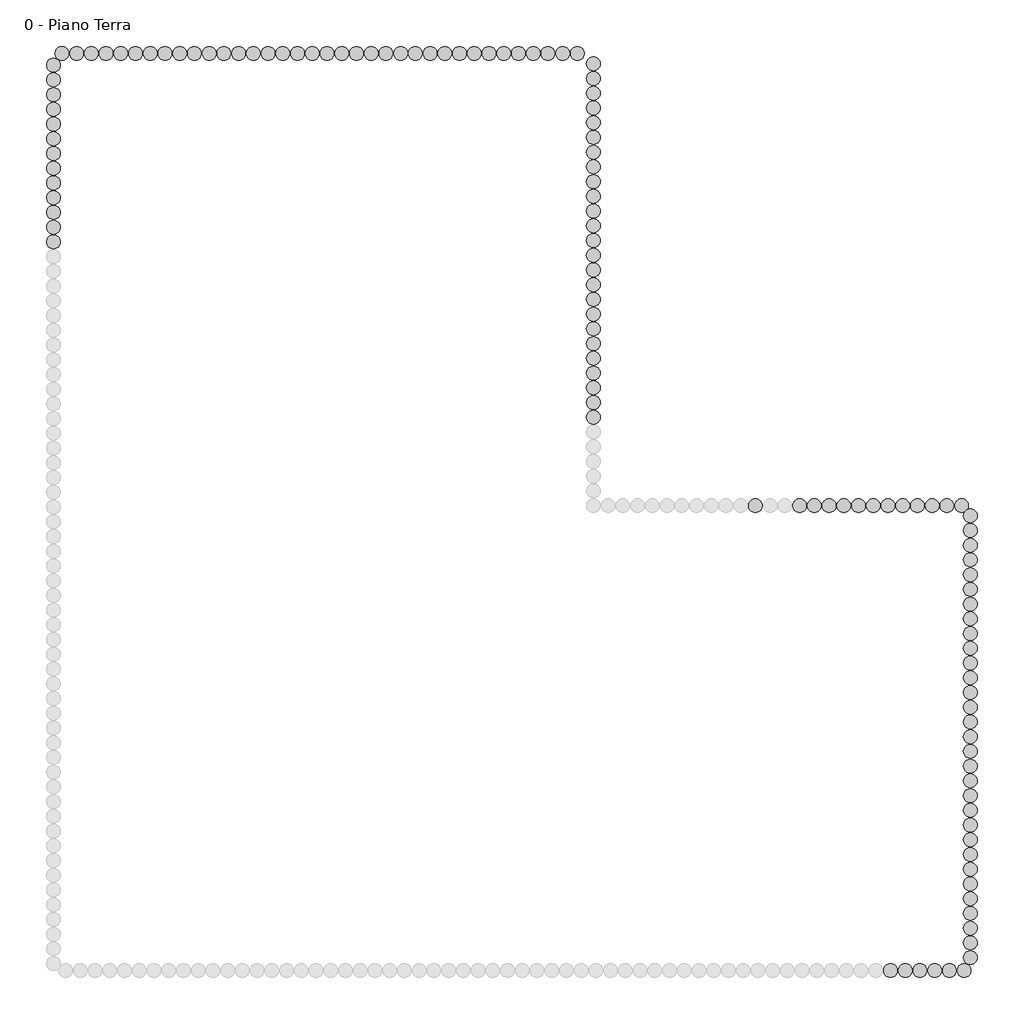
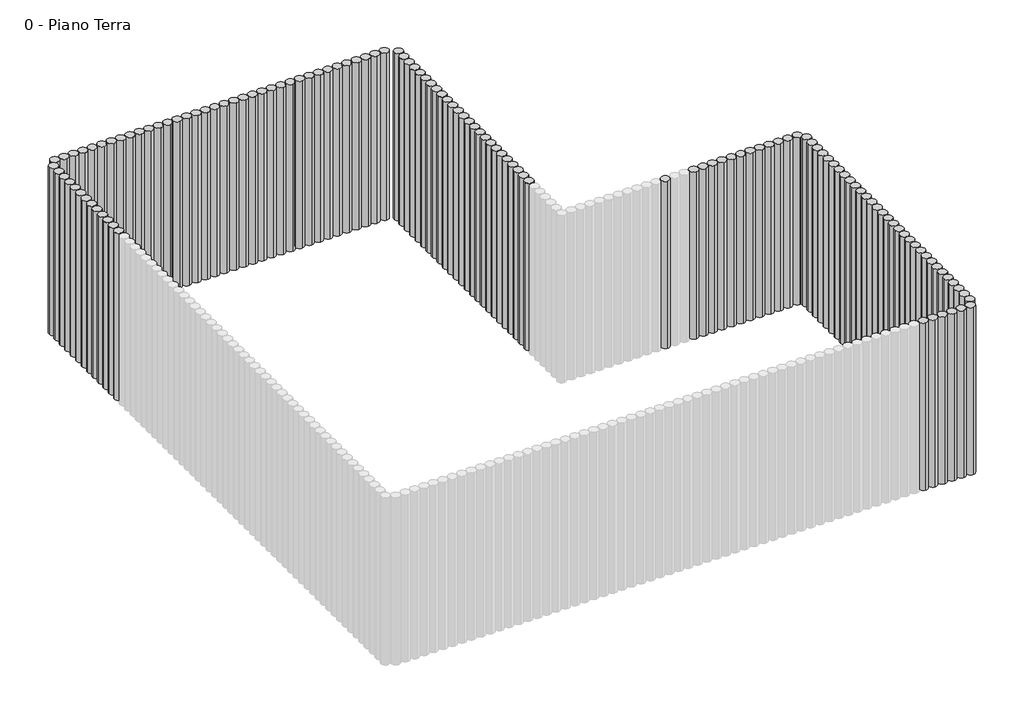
# One storey, part 2 of 2: 124 columns.
"""IFC4 building model written with IfcOpenShell, lengths in millimetres."""

from ifc_helpers import new_model, si_unit, origin, place, context, project, spatial, transform, mapped, element, save
from components import eng_piling_eng_piling_70ba4476

model = new_model("IFC4")

# Units and contexts
model_context = context("Model", 3, world=origin())
ifc_project = project(units=[si_unit("LENGTHUNIT", "METRE", prefix="MILLI")], contexts=[model_context])

# Site, building, storey
site = spatial("IfcSite", under=ifc_project)
building = spatial("IfcBuilding", under=site)
storey = spatial("IfcBuildingStorey", under=building, Name="0 - Piano Terra", Elevation=0.0)

# Columns
placement = place(None, origin())
eng_piling_eng_piling_shape = eng_piling_eng_piling_70ba4476(model_context)
element("IfcColumn", 1, ObjectType="ENG - Piling : ENG - Piling", at=placement, inside=storey, context=model_context, shape_type="MappedRepresentation", body=[
    mapped(eng_piling_eng_piling_shape, transform((-18007.5089367, 34.2238528, 0.0), x_axis=(1.0, 0.0, 0.0), y_axis=(0.0, 1.0, 0.0), z_axis=(0.0, 0.0, 1.0))),
])
element("IfcColumn", 2, ObjectType="ENG - Piling : ENG - Piling", at=placement, inside=storey, context=model_context, shape_type="MappedRepresentation", body=[
    mapped(eng_piling_eng_piling_shape, transform((-18007.5089367, 354.2238528, 0.0), x_axis=(1.0, 0.0, 0.0), y_axis=(0.0, 1.0, 0.0), z_axis=(0.0, 0.0, 1.0))),
])
element("IfcColumn", 3, ObjectType="ENG - Piling : ENG - Piling", at=placement, inside=storey, context=model_context, shape_type="MappedRepresentation", body=[
    mapped(eng_piling_eng_piling_shape, transform((-18007.5089367, 674.2238528, 0.0), x_axis=(1.0, 0.0, 0.0), y_axis=(0.0, 1.0, 0.0), z_axis=(0.0, 0.0, 1.0))),
])
element("IfcColumn", 4, ObjectType="ENG - Piling : ENG - Piling", at=placement, inside=storey, context=model_context, shape_type="MappedRepresentation", body=[
    mapped(eng_piling_eng_piling_shape, transform((-18007.5089367, 994.2238528, 0.0), x_axis=(1.0, 0.0, 0.0), y_axis=(0.0, 1.0, 0.0), z_axis=(0.0, 0.0, 1.0))),
])
element("IfcColumn", 5, ObjectType="ENG - Piling : ENG - Piling", at=placement, inside=storey, context=model_context, shape_type="MappedRepresentation", body=[
    mapped(eng_piling_eng_piling_shape, transform((-18007.5089367, 1314.2238528, 0.0), x_axis=(1.0, 0.0, 0.0), y_axis=(0.0, 1.0, 0.0), z_axis=(0.0, 0.0, 1.0))),
])
element("IfcColumn", 6, ObjectType="ENG - Piling : ENG - Piling", at=placement, inside=storey, context=model_context, shape_type="MappedRepresentation", body=[
    mapped(eng_piling_eng_piling_shape, transform((-18007.5089367, 1634.2238528, 0.0), x_axis=(1.0, 0.0, 0.0), y_axis=(0.0, 1.0, 0.0), z_axis=(0.0, 0.0, 1.0))),
])
element("IfcColumn", 7, ObjectType="ENG - Piling : ENG - Piling", at=placement, inside=storey, context=model_context, shape_type="MappedRepresentation", body=[
    mapped(eng_piling_eng_piling_shape, transform((-18007.5089367, 1954.2238528, 0.0), x_axis=(1.0, 0.0, 0.0), y_axis=(0.0, 1.0, 0.0), z_axis=(0.0, 0.0, 1.0))),
])
element("IfcColumn", 8, ObjectType="ENG - Piling : ENG - Piling", at=placement, inside=storey, context=model_context, shape_type="MappedRepresentation", body=[
    mapped(eng_piling_eng_piling_shape, transform((-18007.5089367, 2274.2238528, 0.0), x_axis=(1.0, 0.0, 0.0), y_axis=(0.0, 1.0, 0.0), z_axis=(0.0, 0.0, 1.0))),
])
element("IfcColumn", 9, ObjectType="ENG - Piling : ENG - Piling", at=placement, inside=storey, context=model_context, shape_type="MappedRepresentation", body=[
    mapped(eng_piling_eng_piling_shape, transform((-18007.5089367, 2594.2238528, 0.0), x_axis=(1.0, 0.0, 0.0), y_axis=(0.0, 1.0, 0.0), z_axis=(0.0, 0.0, 1.0))),
])
element("IfcColumn", 10, ObjectType="ENG - Piling : ENG - Piling", at=placement, inside=storey, context=model_context, shape_type="MappedRepresentation", body=[
    mapped(eng_piling_eng_piling_shape, transform((-18007.5089367, 2914.2238528, 0.0), x_axis=(1.0, 0.0, 0.0), y_axis=(0.0, 1.0, 0.0), z_axis=(0.0, 0.0, 1.0))),
])
element("IfcColumn", 11, ObjectType="ENG - Piling : ENG - Piling", at=placement, inside=storey, context=model_context, shape_type="MappedRepresentation", body=[
    mapped(eng_piling_eng_piling_shape, transform((-18007.5089367, 3234.2238528, 0.0), x_axis=(1.0, 0.0, 0.0), y_axis=(0.0, 1.0, 0.0), z_axis=(0.0, 0.0, 1.0))),
])
element("IfcColumn", 12, ObjectType="ENG - Piling : ENG - Piling", at=placement, inside=storey, context=model_context, shape_type="MappedRepresentation", body=[
    mapped(eng_piling_eng_piling_shape, transform((-18007.5089367, 3554.2238528, 0.0), x_axis=(1.0, 0.0, 0.0), y_axis=(0.0, 1.0, 0.0), z_axis=(0.0, 0.0, 1.0))),
])
element("IfcColumn", 13, ObjectType="ENG - Piling : ENG - Piling", at=placement, inside=storey, context=model_context, shape_type="MappedRepresentation", body=[
    mapped(eng_piling_eng_piling_shape, transform((-18007.5089367, 3874.2238528, 0.0), x_axis=(1.0, 0.0, 0.0), y_axis=(0.0, 1.0, 0.0), z_axis=(0.0, 0.0, 1.0))),
])
element("IfcColumn", 14, ObjectType="ENG - Piling : ENG - Piling", at=placement, inside=storey, context=model_context, shape_type="MappedRepresentation", body=[
    mapped(eng_piling_eng_piling_shape, transform((1777.4910633, -15795.7761472, 0.0), x_axis=(0.0, 1.0000000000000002, 0.0), y_axis=(-1.0000000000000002, 0.0, 0.0), z_axis=(0.0, 0.0, 1.0))),
])
element("IfcColumn", 15, ObjectType="ENG - Piling : ENG - Piling", at=placement, inside=storey, context=model_context, shape_type="MappedRepresentation", body=[
    mapped(eng_piling_eng_piling_shape, transform((1457.4910633, -15795.7761472, 0.0), x_axis=(0.0, 1.0000000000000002, 0.0), y_axis=(-1.0000000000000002, 0.0, 0.0), z_axis=(0.0, 0.0, 1.0))),
])
element("IfcColumn", 16, ObjectType="ENG - Piling : ENG - Piling", at=placement, inside=storey, context=model_context, shape_type="MappedRepresentation", body=[
    mapped(eng_piling_eng_piling_shape, transform((1137.4910633, -15795.7761472, 0.0), x_axis=(0.0, 1.0000000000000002, 0.0), y_axis=(-1.0000000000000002, 0.0, 0.0), z_axis=(0.0, 0.0, 1.0))),
])
element("IfcColumn", 17, ObjectType="ENG - Piling : ENG - Piling", at=placement, inside=storey, context=model_context, shape_type="MappedRepresentation", body=[
    mapped(eng_piling_eng_piling_shape, transform((817.4910633, -15795.7761472, 0.0), x_axis=(0.0, 1.0000000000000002, 0.0), y_axis=(-1.0000000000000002, 0.0, 0.0), z_axis=(0.0, 0.0, 1.0))),
])
element("IfcColumn", 18, ObjectType="ENG - Piling : ENG - Piling", at=placement, inside=storey, context=model_context, shape_type="MappedRepresentation", body=[
    mapped(eng_piling_eng_piling_shape, transform((497.4910633, -15795.7761472, 0.0), x_axis=(0.0, 1.0000000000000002, 0.0), y_axis=(-1.0000000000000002, 0.0, 0.0), z_axis=(0.0, 0.0, 1.0))),
])
element("IfcColumn", 19, ObjectType="ENG - Piling : ENG - Piling", at=placement, inside=storey, context=model_context, shape_type="MappedRepresentation", body=[
    mapped(eng_piling_eng_piling_shape, transform((177.4910633, -15795.7761472, 0.0), x_axis=(0.0, 1.0000000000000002, 0.0), y_axis=(-1.0000000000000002, 0.0, 0.0), z_axis=(0.0, 0.0, 1.0))),
])
element("IfcColumn", 20, ObjectType="ENG - Piling : ENG - Piling", at=placement, inside=storey, context=model_context, shape_type="MappedRepresentation", body=[
    mapped(eng_piling_eng_piling_shape, transform((-6276.5891533, -3776.0018136, 0.0), x_axis=(1.0, 0.0, 0.0), y_axis=(0.0, 1.0, 0.0), z_axis=(0.0, 0.0, 1.0))),
])
element("IfcColumn", 21, ObjectType="ENG - Piling : ENG - Piling", at=placement, inside=storey, context=model_context, shape_type="MappedRepresentation", body=[
    mapped(eng_piling_eng_piling_shape, transform((-6276.5891533, -3456.0018136, 0.0), x_axis=(1.0, 0.0, 0.0), y_axis=(0.0, 1.0, 0.0), z_axis=(0.0, 0.0, 1.0))),
])
element("IfcColumn", 22, ObjectType="ENG - Piling : ENG - Piling", at=placement, inside=storey, context=model_context, shape_type="MappedRepresentation", body=[
    mapped(eng_piling_eng_piling_shape, transform((-6276.5891533, -3136.0018136, 0.0), x_axis=(1.0, 0.0, 0.0), y_axis=(0.0, 1.0, 0.0), z_axis=(0.0, 0.0, 1.0))),
])
element("IfcColumn", 23, ObjectType="ENG - Piling : ENG - Piling", at=placement, inside=storey, context=model_context, shape_type="MappedRepresentation", body=[
    mapped(eng_piling_eng_piling_shape, transform((-6276.5891533, -2816.0018136, 0.0), x_axis=(1.0, 0.0, 0.0), y_axis=(0.0, 1.0, 0.0), z_axis=(0.0, 0.0, 1.0))),
])
element("IfcColumn", 24, ObjectType="ENG - Piling : ENG - Piling", at=placement, inside=storey, context=model_context, shape_type="MappedRepresentation", body=[
    mapped(eng_piling_eng_piling_shape, transform((-6276.5891533, -2496.0018136, 0.0), x_axis=(1.0, 0.0, 0.0), y_axis=(0.0, 1.0, 0.0), z_axis=(0.0, 0.0, 1.0))),
])
element("IfcColumn", 25, ObjectType="ENG - Piling : ENG - Piling", at=placement, inside=storey, context=model_context, shape_type="MappedRepresentation", body=[
    mapped(eng_piling_eng_piling_shape, transform((-6276.5891533, -2176.0018136, 0.0), x_axis=(1.0, 0.0, 0.0), y_axis=(0.0, 1.0, 0.0), z_axis=(0.0, 0.0, 1.0))),
])
element("IfcColumn", 26, ObjectType="ENG - Piling : ENG - Piling", at=placement, inside=storey, context=model_context, shape_type="MappedRepresentation", body=[
    mapped(eng_piling_eng_piling_shape, transform((-6276.5891533, -1856.0018136, 0.0), x_axis=(1.0, 0.0, 0.0), y_axis=(0.0, 1.0, 0.0), z_axis=(0.0, 0.0, 1.0))),
])
element("IfcColumn", 27, ObjectType="ENG - Piling : ENG - Piling", at=placement, inside=storey, context=model_context, shape_type="MappedRepresentation", body=[
    mapped(eng_piling_eng_piling_shape, transform((-6276.5891533, -1536.0018136, 0.0), x_axis=(1.0, 0.0, 0.0), y_axis=(0.0, 1.0, 0.0), z_axis=(0.0, 0.0, 1.0))),
])
element("IfcColumn", 28, ObjectType="ENG - Piling : ENG - Piling", at=placement, inside=storey, context=model_context, shape_type="MappedRepresentation", body=[
    mapped(eng_piling_eng_piling_shape, transform((-6276.5891533, -1216.0018136, 0.0), x_axis=(1.0, 0.0, 0.0), y_axis=(0.0, 1.0, 0.0), z_axis=(0.0, 0.0, 1.0))),
])
element("IfcColumn", 29, ObjectType="ENG - Piling : ENG - Piling", at=placement, inside=storey, context=model_context, shape_type="MappedRepresentation", body=[
    mapped(eng_piling_eng_piling_shape, transform((-6276.5891533, -896.0018136, 0.0), x_axis=(1.0, 0.0, 0.0), y_axis=(0.0, 1.0, 0.0), z_axis=(0.0, 0.0, 1.0))),
])
element("IfcColumn", 30, ObjectType="ENG - Piling : ENG - Piling", at=placement, inside=storey, context=model_context, shape_type="MappedRepresentation", body=[
    mapped(eng_piling_eng_piling_shape, transform((-6276.5891533, -576.0018136, 0.0), x_axis=(1.0, 0.0, 0.0), y_axis=(0.0, 1.0, 0.0), z_axis=(0.0, 0.0, 1.0))),
])
element("IfcColumn", 31, ObjectType="ENG - Piling : ENG - Piling", at=placement, inside=storey, context=model_context, shape_type="MappedRepresentation", body=[
    mapped(eng_piling_eng_piling_shape, transform((-6276.5891533, -256.0018136, 0.0), x_axis=(1.0, 0.0, 0.0), y_axis=(0.0, 1.0, 0.0), z_axis=(0.0, 0.0, 1.0))),
])
element("IfcColumn", 32, ObjectType="ENG - Piling : ENG - Piling", at=placement, inside=storey, context=model_context, shape_type="MappedRepresentation", body=[
    mapped(eng_piling_eng_piling_shape, transform((-6276.5891533, 63.9981864, 0.0), x_axis=(1.0, 0.0, 0.0), y_axis=(0.0, 1.0, 0.0), z_axis=(0.0, 0.0, 1.0))),
])
element("IfcColumn", 33, ObjectType="ENG - Piling : ENG - Piling", at=placement, inside=storey, context=model_context, shape_type="MappedRepresentation", body=[
    mapped(eng_piling_eng_piling_shape, transform((-6276.5891533, 383.9981864, 0.0), x_axis=(1.0, 0.0, 0.0), y_axis=(0.0, 1.0, 0.0), z_axis=(0.0, 0.0, 1.0))),
])
element("IfcColumn", 34, ObjectType="ENG - Piling : ENG - Piling", at=placement, inside=storey, context=model_context, shape_type="MappedRepresentation", body=[
    mapped(eng_piling_eng_piling_shape, transform((-6276.5891533, 703.9981864, 0.0), x_axis=(1.0, 0.0, 0.0), y_axis=(0.0, 1.0, 0.0), z_axis=(0.0, 0.0, 1.0))),
])
element("IfcColumn", 35, ObjectType="ENG - Piling : ENG - Piling", at=placement, inside=storey, context=model_context, shape_type="MappedRepresentation", body=[
    mapped(eng_piling_eng_piling_shape, transform((-6276.5891533, 1023.9981864, 0.0), x_axis=(1.0, 0.0, 0.0), y_axis=(0.0, 1.0, 0.0), z_axis=(0.0, 0.0, 1.0))),
])
element("IfcColumn", 36, ObjectType="ENG - Piling : ENG - Piling", at=placement, inside=storey, context=model_context, shape_type="MappedRepresentation", body=[
    mapped(eng_piling_eng_piling_shape, transform((-6276.5891533, 1343.9981864, 0.0), x_axis=(1.0, 0.0, 0.0), y_axis=(0.0, 1.0, 0.0), z_axis=(0.0, 0.0, 1.0))),
])
element("IfcColumn", 37, ObjectType="ENG - Piling : ENG - Piling", at=placement, inside=storey, context=model_context, shape_type="MappedRepresentation", body=[
    mapped(eng_piling_eng_piling_shape, transform((-6276.5891533, 1663.9981864, 0.0), x_axis=(1.0, 0.0, 0.0), y_axis=(0.0, 1.0, 0.0), z_axis=(0.0, 0.0, 1.0))),
])
element("IfcColumn", 38, ObjectType="ENG - Piling : ENG - Piling", at=placement, inside=storey, context=model_context, shape_type="MappedRepresentation", body=[
    mapped(eng_piling_eng_piling_shape, transform((-6276.5891533, 1983.9981864, 0.0), x_axis=(1.0, 0.0, 0.0), y_axis=(0.0, 1.0, 0.0), z_axis=(0.0, 0.0, 1.0))),
])
element("IfcColumn", 39, ObjectType="ENG - Piling : ENG - Piling", at=placement, inside=storey, context=model_context, shape_type="MappedRepresentation", body=[
    mapped(eng_piling_eng_piling_shape, transform((-6276.5891533, 2303.9981864, 0.0), x_axis=(1.0, 0.0, 0.0), y_axis=(0.0, 1.0, 0.0), z_axis=(0.0, 0.0, 1.0))),
])
element("IfcColumn", 40, ObjectType="ENG - Piling : ENG - Piling", at=placement, inside=storey, context=model_context, shape_type="MappedRepresentation", body=[
    mapped(eng_piling_eng_piling_shape, transform((-6276.5891533, 2623.9981864, 0.0), x_axis=(1.0, 0.0, 0.0), y_axis=(0.0, 1.0, 0.0), z_axis=(0.0, 0.0, 1.0))),
])
element("IfcColumn", 41, ObjectType="ENG - Piling : ENG - Piling", at=placement, inside=storey, context=model_context, shape_type="MappedRepresentation", body=[
    mapped(eng_piling_eng_piling_shape, transform((-6276.5891533, 2943.9981864, 0.0), x_axis=(1.0, 0.0, 0.0), y_axis=(0.0, 1.0, 0.0), z_axis=(0.0, 0.0, 1.0))),
])
element("IfcColumn", 42, ObjectType="ENG - Piling : ENG - Piling", at=placement, inside=storey, context=model_context, shape_type="MappedRepresentation", body=[
    mapped(eng_piling_eng_piling_shape, transform((-6276.5891533, 3263.9981864, 0.0), x_axis=(1.0, 0.0, 0.0), y_axis=(0.0, 1.0, 0.0), z_axis=(0.0, 0.0, 1.0))),
])
element("IfcColumn", 43, ObjectType="ENG - Piling : ENG - Piling", at=placement, inside=storey, context=model_context, shape_type="MappedRepresentation", body=[
    mapped(eng_piling_eng_piling_shape, transform((-6276.5891533, 3583.9981864, 0.0), x_axis=(1.0, 0.0, 0.0), y_axis=(0.0, 1.0, 0.0), z_axis=(0.0, 0.0, 1.0))),
])
element("IfcColumn", 44, ObjectType="ENG - Piling : ENG - Piling", at=placement, inside=storey, context=model_context, shape_type="MappedRepresentation", body=[
    mapped(eng_piling_eng_piling_shape, transform((-6276.5891533, 3903.9981864, 0.0), x_axis=(1.0, 0.0, 0.0), y_axis=(0.0, 1.0, 0.0), z_axis=(0.0, 0.0, 1.0))),
])
element("IfcColumn", 45, ObjectType="ENG - Piling : ENG - Piling", at=placement, inside=storey, context=model_context, shape_type="MappedRepresentation", body=[
    mapped(eng_piling_eng_piling_shape, transform((-17824.6281643, 4128.003934, 0.0), x_axis=(1.0, 0.0, 0.0), y_axis=(0.0, 1.0, 0.0), z_axis=(0.0, 0.0, 1.0))),
])
element("IfcColumn", 46, ObjectType="ENG - Piling : ENG - Piling", at=placement, inside=storey, context=model_context, shape_type="MappedRepresentation", body=[
    mapped(eng_piling_eng_piling_shape, transform((-6624.6281643, 4128.003934, 0.0), x_axis=(0.0, -1.0000000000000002, 0.0), y_axis=(1.0000000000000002, 0.0, 0.0), z_axis=(0.0, 0.0, 1.0))),
])
element("IfcColumn", 47, ObjectType="ENG - Piling : ENG - Piling", at=placement, inside=storey, context=model_context, shape_type="MappedRepresentation", body=[
    mapped(eng_piling_eng_piling_shape, transform((-6944.6281643, 4128.003934, 0.0), x_axis=(0.0, -1.0000000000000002, 0.0), y_axis=(1.0000000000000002, 0.0, 0.0), z_axis=(0.0, 0.0, 1.0))),
])
element("IfcColumn", 48, ObjectType="ENG - Piling : ENG - Piling", at=placement, inside=storey, context=model_context, shape_type="MappedRepresentation", body=[
    mapped(eng_piling_eng_piling_shape, transform((-7264.6281643, 4128.003934, 0.0), x_axis=(0.0, -1.0000000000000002, 0.0), y_axis=(1.0000000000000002, 0.0, 0.0), z_axis=(0.0, 0.0, 1.0))),
])
element("IfcColumn", 49, ObjectType="ENG - Piling : ENG - Piling", at=placement, inside=storey, context=model_context, shape_type="MappedRepresentation", body=[
    mapped(eng_piling_eng_piling_shape, transform((-7584.6281643, 4128.003934, 0.0), x_axis=(0.0, -1.0000000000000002, 0.0), y_axis=(1.0000000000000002, 0.0, 0.0), z_axis=(0.0, 0.0, 1.0))),
])
element("IfcColumn", 50, ObjectType="ENG - Piling : ENG - Piling", at=placement, inside=storey, context=model_context, shape_type="MappedRepresentation", body=[
    mapped(eng_piling_eng_piling_shape, transform((-7904.6281643, 4128.003934, 0.0), x_axis=(0.0, -1.0000000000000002, 0.0), y_axis=(1.0000000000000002, 0.0, 0.0), z_axis=(0.0, 0.0, 1.0))),
])
element("IfcColumn", 51, ObjectType="ENG - Piling : ENG - Piling", at=placement, inside=storey, context=model_context, shape_type="MappedRepresentation", body=[
    mapped(eng_piling_eng_piling_shape, transform((-8224.6281643, 4128.003934, 0.0), x_axis=(0.0, -1.0000000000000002, 0.0), y_axis=(1.0000000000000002, 0.0, 0.0), z_axis=(0.0, 0.0, 1.0))),
])
element("IfcColumn", 52, ObjectType="ENG - Piling : ENG - Piling", at=placement, inside=storey, context=model_context, shape_type="MappedRepresentation", body=[
    mapped(eng_piling_eng_piling_shape, transform((-8544.6281643, 4128.003934, 0.0), x_axis=(0.0, -1.0000000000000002, 0.0), y_axis=(1.0000000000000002, 0.0, 0.0), z_axis=(0.0, 0.0, 1.0))),
])
element("IfcColumn", 53, ObjectType="ENG - Piling : ENG - Piling", at=placement, inside=storey, context=model_context, shape_type="MappedRepresentation", body=[
    mapped(eng_piling_eng_piling_shape, transform((-8864.6281643, 4128.003934, 0.0), x_axis=(0.0, -1.0000000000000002, 0.0), y_axis=(1.0000000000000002, 0.0, 0.0), z_axis=(0.0, 0.0, 1.0))),
])
element("IfcColumn", 54, ObjectType="ENG - Piling : ENG - Piling", at=placement, inside=storey, context=model_context, shape_type="MappedRepresentation", body=[
    mapped(eng_piling_eng_piling_shape, transform((-9184.6281643, 4128.003934, 0.0), x_axis=(0.0, -1.0000000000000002, 0.0), y_axis=(1.0000000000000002, 0.0, 0.0), z_axis=(0.0, 0.0, 1.0))),
])
element("IfcColumn", 55, ObjectType="ENG - Piling : ENG - Piling", at=placement, inside=storey, context=model_context, shape_type="MappedRepresentation", body=[
    mapped(eng_piling_eng_piling_shape, transform((-9504.6281643, 4128.003934, 0.0), x_axis=(0.0, -1.0000000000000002, 0.0), y_axis=(1.0000000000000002, 0.0, 0.0), z_axis=(0.0, 0.0, 1.0))),
])
element("IfcColumn", 56, ObjectType="ENG - Piling : ENG - Piling", at=placement, inside=storey, context=model_context, shape_type="MappedRepresentation", body=[
    mapped(eng_piling_eng_piling_shape, transform((-9824.6281643, 4128.003934, 0.0), x_axis=(0.0, -1.0000000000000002, 0.0), y_axis=(1.0000000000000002, 0.0, 0.0), z_axis=(0.0, 0.0, 1.0))),
])
element("IfcColumn", 57, ObjectType="ENG - Piling : ENG - Piling", at=placement, inside=storey, context=model_context, shape_type="MappedRepresentation", body=[
    mapped(eng_piling_eng_piling_shape, transform((-10144.6281643, 4128.003934, 0.0), x_axis=(0.0, -1.0000000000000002, 0.0), y_axis=(1.0000000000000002, 0.0, 0.0), z_axis=(0.0, 0.0, 1.0))),
])
element("IfcColumn", 58, ObjectType="ENG - Piling : ENG - Piling", at=placement, inside=storey, context=model_context, shape_type="MappedRepresentation", body=[
    mapped(eng_piling_eng_piling_shape, transform((-10464.6281643, 4128.003934, 0.0), x_axis=(0.0, -1.0000000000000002, 0.0), y_axis=(1.0000000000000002, 0.0, 0.0), z_axis=(0.0, 0.0, 1.0))),
])
element("IfcColumn", 59, ObjectType="ENG - Piling : ENG - Piling", at=placement, inside=storey, context=model_context, shape_type="MappedRepresentation", body=[
    mapped(eng_piling_eng_piling_shape, transform((-10784.6281643, 4128.003934, 0.0), x_axis=(0.0, -1.0000000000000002, 0.0), y_axis=(1.0000000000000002, 0.0, 0.0), z_axis=(0.0, 0.0, 1.0))),
])
element("IfcColumn", 60, ObjectType="ENG - Piling : ENG - Piling", at=placement, inside=storey, context=model_context, shape_type="MappedRepresentation", body=[
    mapped(eng_piling_eng_piling_shape, transform((-11104.6281643, 4128.003934, 0.0), x_axis=(0.0, -1.0000000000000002, 0.0), y_axis=(1.0000000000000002, 0.0, 0.0), z_axis=(0.0, 0.0, 1.0))),
])
element("IfcColumn", 61, ObjectType="ENG - Piling : ENG - Piling", at=placement, inside=storey, context=model_context, shape_type="MappedRepresentation", body=[
    mapped(eng_piling_eng_piling_shape, transform((-11424.6281643, 4128.003934, 0.0), x_axis=(0.0, -1.0000000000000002, 0.0), y_axis=(1.0000000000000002, 0.0, 0.0), z_axis=(0.0, 0.0, 1.0))),
])
element("IfcColumn", 62, ObjectType="ENG - Piling : ENG - Piling", at=placement, inside=storey, context=model_context, shape_type="MappedRepresentation", body=[
    mapped(eng_piling_eng_piling_shape, transform((-11744.6281643, 4128.003934, 0.0), x_axis=(0.0, -1.0000000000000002, 0.0), y_axis=(1.0000000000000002, 0.0, 0.0), z_axis=(0.0, 0.0, 1.0))),
])
element("IfcColumn", 63, ObjectType="ENG - Piling : ENG - Piling", at=placement, inside=storey, context=model_context, shape_type="MappedRepresentation", body=[
    mapped(eng_piling_eng_piling_shape, transform((-12064.6281643, 4128.003934, 0.0), x_axis=(0.0, -1.0000000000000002, 0.0), y_axis=(1.0000000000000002, 0.0, 0.0), z_axis=(0.0, 0.0, 1.0))),
])
element("IfcColumn", 64, ObjectType="ENG - Piling : ENG - Piling", at=placement, inside=storey, context=model_context, shape_type="MappedRepresentation", body=[
    mapped(eng_piling_eng_piling_shape, transform((-12384.6281643, 4128.003934, 0.0), x_axis=(0.0, -1.0000000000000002, 0.0), y_axis=(1.0000000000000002, 0.0, 0.0), z_axis=(0.0, 0.0, 1.0))),
])
element("IfcColumn", 65, ObjectType="ENG - Piling : ENG - Piling", at=placement, inside=storey, context=model_context, shape_type="MappedRepresentation", body=[
    mapped(eng_piling_eng_piling_shape, transform((-12704.6281643, 4128.003934, 0.0), x_axis=(0.0, -1.0000000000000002, 0.0), y_axis=(1.0000000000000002, 0.0, 0.0), z_axis=(0.0, 0.0, 1.0))),
])
element("IfcColumn", 66, ObjectType="ENG - Piling : ENG - Piling", at=placement, inside=storey, context=model_context, shape_type="MappedRepresentation", body=[
    mapped(eng_piling_eng_piling_shape, transform((-13024.6281643, 4128.003934, 0.0), x_axis=(0.0, -1.0000000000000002, 0.0), y_axis=(1.0000000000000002, 0.0, 0.0), z_axis=(0.0, 0.0, 1.0))),
])
element("IfcColumn", 67, ObjectType="ENG - Piling : ENG - Piling", at=placement, inside=storey, context=model_context, shape_type="MappedRepresentation", body=[
    mapped(eng_piling_eng_piling_shape, transform((-13344.6281643, 4128.003934, 0.0), x_axis=(0.0, -1.0000000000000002, 0.0), y_axis=(1.0000000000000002, 0.0, 0.0), z_axis=(0.0, 0.0, 1.0))),
])
element("IfcColumn", 68, ObjectType="ENG - Piling : ENG - Piling", at=placement, inside=storey, context=model_context, shape_type="MappedRepresentation", body=[
    mapped(eng_piling_eng_piling_shape, transform((-13664.6281643, 4128.003934, 0.0), x_axis=(0.0, -1.0000000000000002, 0.0), y_axis=(1.0000000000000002, 0.0, 0.0), z_axis=(0.0, 0.0, 1.0))),
])
element("IfcColumn", 69, ObjectType="ENG - Piling : ENG - Piling", at=placement, inside=storey, context=model_context, shape_type="MappedRepresentation", body=[
    mapped(eng_piling_eng_piling_shape, transform((-13984.6281643, 4128.003934, 0.0), x_axis=(0.0, -1.0000000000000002, 0.0), y_axis=(1.0000000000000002, 0.0, 0.0), z_axis=(0.0, 0.0, 1.0))),
])
element("IfcColumn", 70, ObjectType="ENG - Piling : ENG - Piling", at=placement, inside=storey, context=model_context, shape_type="MappedRepresentation", body=[
    mapped(eng_piling_eng_piling_shape, transform((-14304.6281643, 4128.003934, 0.0), x_axis=(0.0, -1.0000000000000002, 0.0), y_axis=(1.0000000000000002, 0.0, 0.0), z_axis=(0.0, 0.0, 1.0))),
])
element("IfcColumn", 71, ObjectType="ENG - Piling : ENG - Piling", at=placement, inside=storey, context=model_context, shape_type="MappedRepresentation", body=[
    mapped(eng_piling_eng_piling_shape, transform((-14624.6281643, 4128.003934, 0.0), x_axis=(0.0, -1.0000000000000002, 0.0), y_axis=(1.0000000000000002, 0.0, 0.0), z_axis=(0.0, 0.0, 1.0))),
])
element("IfcColumn", 72, ObjectType="ENG - Piling : ENG - Piling", at=placement, inside=storey, context=model_context, shape_type="MappedRepresentation", body=[
    mapped(eng_piling_eng_piling_shape, transform((-14944.6281643, 4128.003934, 0.0), x_axis=(0.0, -1.0000000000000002, 0.0), y_axis=(1.0000000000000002, 0.0, 0.0), z_axis=(0.0, 0.0, 1.0))),
])
element("IfcColumn", 73, ObjectType="ENG - Piling : ENG - Piling", at=placement, inside=storey, context=model_context, shape_type="MappedRepresentation", body=[
    mapped(eng_piling_eng_piling_shape, transform((-15264.6281643, 4128.003934, 0.0), x_axis=(0.0, -1.0000000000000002, 0.0), y_axis=(1.0000000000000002, 0.0, 0.0), z_axis=(0.0, 0.0, 1.0))),
])
element("IfcColumn", 74, ObjectType="ENG - Piling : ENG - Piling", at=placement, inside=storey, context=model_context, shape_type="MappedRepresentation", body=[
    mapped(eng_piling_eng_piling_shape, transform((-15584.6281643, 4128.003934, 0.0), x_axis=(0.0, -1.0000000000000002, 0.0), y_axis=(1.0000000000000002, 0.0, 0.0), z_axis=(0.0, 0.0, 1.0))),
])
element("IfcColumn", 75, ObjectType="ENG - Piling : ENG - Piling", at=placement, inside=storey, context=model_context, shape_type="MappedRepresentation", body=[
    mapped(eng_piling_eng_piling_shape, transform((-15904.6281643, 4128.003934, 0.0), x_axis=(0.0, -1.0000000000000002, 0.0), y_axis=(1.0000000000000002, 0.0, 0.0), z_axis=(0.0, 0.0, 1.0))),
])
element("IfcColumn", 76, ObjectType="ENG - Piling : ENG - Piling", at=placement, inside=storey, context=model_context, shape_type="MappedRepresentation", body=[
    mapped(eng_piling_eng_piling_shape, transform((-16224.6281643, 4128.003934, 0.0), x_axis=(0.0, -1.0000000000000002, 0.0), y_axis=(1.0000000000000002, 0.0, 0.0), z_axis=(0.0, 0.0, 1.0))),
])
element("IfcColumn", 77, ObjectType="ENG - Piling : ENG - Piling", at=placement, inside=storey, context=model_context, shape_type="MappedRepresentation", body=[
    mapped(eng_piling_eng_piling_shape, transform((-16544.6281643, 4128.003934, 0.0), x_axis=(0.0, -1.0000000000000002, 0.0), y_axis=(1.0000000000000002, 0.0, 0.0), z_axis=(0.0, 0.0, 1.0))),
])
element("IfcColumn", 78, ObjectType="ENG - Piling : ENG - Piling", at=placement, inside=storey, context=model_context, shape_type="MappedRepresentation", body=[
    mapped(eng_piling_eng_piling_shape, transform((-16864.6281643, 4128.003934, 0.0), x_axis=(0.0, -1.0000000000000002, 0.0), y_axis=(1.0000000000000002, 0.0, 0.0), z_axis=(0.0, 0.0, 1.0))),
])
element("IfcColumn", 79, ObjectType="ENG - Piling : ENG - Piling", at=placement, inside=storey, context=model_context, shape_type="MappedRepresentation", body=[
    mapped(eng_piling_eng_piling_shape, transform((-17184.6281643, 4128.003934, 0.0), x_axis=(0.0, -1.0000000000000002, 0.0), y_axis=(1.0000000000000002, 0.0, 0.0), z_axis=(0.0, 0.0, 1.0))),
])
element("IfcColumn", 80, ObjectType="ENG - Piling : ENG - Piling", at=placement, inside=storey, context=model_context, shape_type="MappedRepresentation", body=[
    mapped(eng_piling_eng_piling_shape, transform((-17504.6281643, 4128.003934, 0.0), x_axis=(0.0, -1.0000000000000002, 0.0), y_axis=(1.0000000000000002, 0.0, 0.0), z_axis=(0.0, 0.0, 1.0))),
])
element("IfcColumn", 81, ObjectType="ENG - Piling : ENG - Piling", at=placement, inside=storey, context=model_context, shape_type="MappedRepresentation", body=[
    mapped(eng_piling_eng_piling_shape, transform((1912.3707384, -15515.5413831, 0.0), x_axis=(-1.0, 0.0, 0.0), y_axis=(0.0, -1.0, 0.0), z_axis=(0.0, 0.0, 1.0))),
])
element("IfcColumn", 82, ObjectType="ENG - Piling : ENG - Piling", at=placement, inside=storey, context=model_context, shape_type="MappedRepresentation", body=[
    mapped(eng_piling_eng_piling_shape, transform((1912.3707384, -15195.5413831, 0.0), x_axis=(-1.0, 0.0, 0.0), y_axis=(0.0, -1.0, 0.0), z_axis=(0.0, 0.0, 1.0))),
])
element("IfcColumn", 83, ObjectType="ENG - Piling : ENG - Piling", at=placement, inside=storey, context=model_context, shape_type="MappedRepresentation", body=[
    mapped(eng_piling_eng_piling_shape, transform((1912.3707384, -14875.5413831, 0.0), x_axis=(-1.0, 0.0, 0.0), y_axis=(0.0, -1.0, 0.0), z_axis=(0.0, 0.0, 1.0))),
])
element("IfcColumn", 84, ObjectType="ENG - Piling : ENG - Piling", at=placement, inside=storey, context=model_context, shape_type="MappedRepresentation", body=[
    mapped(eng_piling_eng_piling_shape, transform((1912.3707384, -14555.5413831, 0.0), x_axis=(-1.0, 0.0, 0.0), y_axis=(0.0, -1.0, 0.0), z_axis=(0.0, 0.0, 1.0))),
])
element("IfcColumn", 85, ObjectType="ENG - Piling : ENG - Piling", at=placement, inside=storey, context=model_context, shape_type="MappedRepresentation", body=[
    mapped(eng_piling_eng_piling_shape, transform((1912.3707384, -14235.5413831, 0.0), x_axis=(-1.0, 0.0, 0.0), y_axis=(0.0, -1.0, 0.0), z_axis=(0.0, 0.0, 1.0))),
])
element("IfcColumn", 86, ObjectType="ENG - Piling : ENG - Piling", at=placement, inside=storey, context=model_context, shape_type="MappedRepresentation", body=[
    mapped(eng_piling_eng_piling_shape, transform((1912.3707384, -13915.5413831, 0.0), x_axis=(-1.0, 0.0, 0.0), y_axis=(0.0, -1.0, 0.0), z_axis=(0.0, 0.0, 1.0))),
])
element("IfcColumn", 87, ObjectType="ENG - Piling : ENG - Piling", at=placement, inside=storey, context=model_context, shape_type="MappedRepresentation", body=[
    mapped(eng_piling_eng_piling_shape, transform((1912.3707384, -13595.5413831, 0.0), x_axis=(-1.0, 0.0, 0.0), y_axis=(0.0, -1.0, 0.0), z_axis=(0.0, 0.0, 1.0))),
])
element("IfcColumn", 88, ObjectType="ENG - Piling : ENG - Piling", at=placement, inside=storey, context=model_context, shape_type="MappedRepresentation", body=[
    mapped(eng_piling_eng_piling_shape, transform((1912.3707384, -13275.5413831, 0.0), x_axis=(-1.0, 0.0, 0.0), y_axis=(0.0, -1.0, 0.0), z_axis=(0.0, 0.0, 1.0))),
])
element("IfcColumn", 89, ObjectType="ENG - Piling : ENG - Piling", at=placement, inside=storey, context=model_context, shape_type="MappedRepresentation", body=[
    mapped(eng_piling_eng_piling_shape, transform((1912.3707384, -12955.5413831, 0.0), x_axis=(-1.0, 0.0, 0.0), y_axis=(0.0, -1.0, 0.0), z_axis=(0.0, 0.0, 1.0))),
])
element("IfcColumn", 90, ObjectType="ENG - Piling : ENG - Piling", at=placement, inside=storey, context=model_context, shape_type="MappedRepresentation", body=[
    mapped(eng_piling_eng_piling_shape, transform((1912.3707384, -12635.5413831, 0.0), x_axis=(-1.0, 0.0, 0.0), y_axis=(0.0, -1.0, 0.0), z_axis=(0.0, 0.0, 1.0))),
])
element("IfcColumn", 91, ObjectType="ENG - Piling : ENG - Piling", at=placement, inside=storey, context=model_context, shape_type="MappedRepresentation", body=[
    mapped(eng_piling_eng_piling_shape, transform((1912.3707384, -12315.5413831, 0.0), x_axis=(-1.0, 0.0, 0.0), y_axis=(0.0, -1.0, 0.0), z_axis=(0.0, 0.0, 1.0))),
])
element("IfcColumn", 92, ObjectType="ENG - Piling : ENG - Piling", at=placement, inside=storey, context=model_context, shape_type="MappedRepresentation", body=[
    mapped(eng_piling_eng_piling_shape, transform((1912.3707384, -11995.5413831, 0.0), x_axis=(-1.0, 0.0, 0.0), y_axis=(0.0, -1.0, 0.0), z_axis=(0.0, 0.0, 1.0))),
])
element("IfcColumn", 93, ObjectType="ENG - Piling : ENG - Piling", at=placement, inside=storey, context=model_context, shape_type="MappedRepresentation", body=[
    mapped(eng_piling_eng_piling_shape, transform((1912.3707384, -11675.5413831, 0.0), x_axis=(-1.0, 0.0, 0.0), y_axis=(0.0, -1.0, 0.0), z_axis=(0.0, 0.0, 1.0))),
])
element("IfcColumn", 94, ObjectType="ENG - Piling : ENG - Piling", at=placement, inside=storey, context=model_context, shape_type="MappedRepresentation", body=[
    mapped(eng_piling_eng_piling_shape, transform((1912.3707384, -11355.5413831, 0.0), x_axis=(-1.0, 0.0, 0.0), y_axis=(0.0, -1.0, 0.0), z_axis=(0.0, 0.0, 1.0))),
])
element("IfcColumn", 95, ObjectType="ENG - Piling : ENG - Piling", at=placement, inside=storey, context=model_context, shape_type="MappedRepresentation", body=[
    mapped(eng_piling_eng_piling_shape, transform((1912.3707384, -11035.5413831, 0.0), x_axis=(-1.0, 0.0, 0.0), y_axis=(0.0, -1.0, 0.0), z_axis=(0.0, 0.0, 1.0))),
])
element("IfcColumn", 96, ObjectType="ENG - Piling : ENG - Piling", at=placement, inside=storey, context=model_context, shape_type="MappedRepresentation", body=[
    mapped(eng_piling_eng_piling_shape, transform((1912.3707384, -10715.5413831, 0.0), x_axis=(-1.0, 0.0, 0.0), y_axis=(0.0, -1.0, 0.0), z_axis=(0.0, 0.0, 1.0))),
])
element("IfcColumn", 97, ObjectType="ENG - Piling : ENG - Piling", at=placement, inside=storey, context=model_context, shape_type="MappedRepresentation", body=[
    mapped(eng_piling_eng_piling_shape, transform((1912.3707384, -10395.5413831, 0.0), x_axis=(-1.0, 0.0, 0.0), y_axis=(0.0, -1.0, 0.0), z_axis=(0.0, 0.0, 1.0))),
])
element("IfcColumn", 98, ObjectType="ENG - Piling : ENG - Piling", at=placement, inside=storey, context=model_context, shape_type="MappedRepresentation", body=[
    mapped(eng_piling_eng_piling_shape, transform((1912.3707384, -10075.5413831, 0.0), x_axis=(-1.0, 0.0, 0.0), y_axis=(0.0, -1.0, 0.0), z_axis=(0.0, 0.0, 1.0))),
])
element("IfcColumn", 99, ObjectType="ENG - Piling : ENG - Piling", at=placement, inside=storey, context=model_context, shape_type="MappedRepresentation", body=[
    mapped(eng_piling_eng_piling_shape, transform((1912.3707384, -9755.5413831, 0.0), x_axis=(-1.0, 0.0, 0.0), y_axis=(0.0, -1.0, 0.0), z_axis=(0.0, 0.0, 1.0))),
])
element("IfcColumn", 100, ObjectType="ENG - Piling : ENG - Piling", at=placement, inside=storey, context=model_context, shape_type="MappedRepresentation", body=[
    mapped(eng_piling_eng_piling_shape, transform((1912.3707384, -9435.5413831, 0.0), x_axis=(-1.0, 0.0, 0.0), y_axis=(0.0, -1.0, 0.0), z_axis=(0.0, 0.0, 1.0))),
])
element("IfcColumn", 101, ObjectType="ENG - Piling : ENG - Piling", at=placement, inside=storey, context=model_context, shape_type="MappedRepresentation", body=[
    mapped(eng_piling_eng_piling_shape, transform((1912.3707384, -9115.5413831, 0.0), x_axis=(-1.0, 0.0, 0.0), y_axis=(0.0, -1.0, 0.0), z_axis=(0.0, 0.0, 1.0))),
])
element("IfcColumn", 102, ObjectType="ENG - Piling : ENG - Piling", at=placement, inside=storey, context=model_context, shape_type="MappedRepresentation", body=[
    mapped(eng_piling_eng_piling_shape, transform((1912.3707384, -8795.5413831, 0.0), x_axis=(-1.0, 0.0, 0.0), y_axis=(0.0, -1.0, 0.0), z_axis=(0.0, 0.0, 1.0))),
])
element("IfcColumn", 103, ObjectType="ENG - Piling : ENG - Piling", at=placement, inside=storey, context=model_context, shape_type="MappedRepresentation", body=[
    mapped(eng_piling_eng_piling_shape, transform((1912.3707384, -8475.5413831, 0.0), x_axis=(-1.0, 0.0, 0.0), y_axis=(0.0, -1.0, 0.0), z_axis=(0.0, 0.0, 1.0))),
])
element("IfcColumn", 104, ObjectType="ENG - Piling : ENG - Piling", at=placement, inside=storey, context=model_context, shape_type="MappedRepresentation", body=[
    mapped(eng_piling_eng_piling_shape, transform((1912.3707384, -8155.5413831, 0.0), x_axis=(-1.0, 0.0, 0.0), y_axis=(0.0, -1.0, 0.0), z_axis=(0.0, 0.0, 1.0))),
])
element("IfcColumn", 105, ObjectType="ENG - Piling : ENG - Piling", at=placement, inside=storey, context=model_context, shape_type="MappedRepresentation", body=[
    mapped(eng_piling_eng_piling_shape, transform((1912.3707384, -7835.5413831, 0.0), x_axis=(-1.0, 0.0, 0.0), y_axis=(0.0, -1.0, 0.0), z_axis=(0.0, 0.0, 1.0))),
])
element("IfcColumn", 106, ObjectType="ENG - Piling : ENG - Piling", at=placement, inside=storey, context=model_context, shape_type="MappedRepresentation", body=[
    mapped(eng_piling_eng_piling_shape, transform((1912.3707384, -7515.5413831, 0.0), x_axis=(-1.0, 0.0, 0.0), y_axis=(0.0, -1.0, 0.0), z_axis=(0.0, 0.0, 1.0))),
])
element("IfcColumn", 107, ObjectType="ENG - Piling : ENG - Piling", at=placement, inside=storey, context=model_context, shape_type="MappedRepresentation", body=[
    mapped(eng_piling_eng_piling_shape, transform((1912.3707384, -7195.5413831, 0.0), x_axis=(-1.0, 0.0, 0.0), y_axis=(0.0, -1.0, 0.0), z_axis=(0.0, 0.0, 1.0))),
])
element("IfcColumn", 108, ObjectType="ENG - Piling : ENG - Piling", at=placement, inside=storey, context=model_context, shape_type="MappedRepresentation", body=[
    mapped(eng_piling_eng_piling_shape, transform((1912.3707384, -6875.5413831, 0.0), x_axis=(-1.0, 0.0, 0.0), y_axis=(0.0, -1.0, 0.0), z_axis=(0.0, 0.0, 1.0))),
])
element("IfcColumn", 109, ObjectType="ENG - Piling : ENG - Piling", at=placement, inside=storey, context=model_context, shape_type="MappedRepresentation", body=[
    mapped(eng_piling_eng_piling_shape, transform((1912.3707384, -6555.5413831, 0.0), x_axis=(-1.0, 0.0, 0.0), y_axis=(0.0, -1.0, 0.0), z_axis=(0.0, 0.0, 1.0))),
])
element("IfcColumn", 110, ObjectType="ENG - Piling : ENG - Piling", at=placement, inside=storey, context=model_context, shape_type="MappedRepresentation", body=[
    mapped(eng_piling_eng_piling_shape, transform((1912.3707384, -6235.5413831, 0.0), x_axis=(-1.0, 0.0, 0.0), y_axis=(0.0, -1.0, 0.0), z_axis=(0.0, 0.0, 1.0))),
])
element("IfcColumn", 111, ObjectType="ENG - Piling : ENG - Piling", at=placement, inside=storey, context=model_context, shape_type="MappedRepresentation", body=[
    mapped(eng_piling_eng_piling_shape, transform((1912.3707384, -5915.5413831, 0.0), x_axis=(-1.0, 0.0, 0.0), y_axis=(0.0, -1.0, 0.0), z_axis=(0.0, 0.0, 1.0))),
])
element("IfcColumn", 112, ObjectType="ENG - Piling : ENG - Piling", at=placement, inside=storey, context=model_context, shape_type="MappedRepresentation", body=[
    mapped(eng_piling_eng_piling_shape, transform((1723.4108467, -5695.9559577, 0.0), x_axis=(0.0, -1.0000000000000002, 0.0), y_axis=(1.0000000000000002, 0.0, 0.0), z_axis=(0.0, 0.0, 1.0))),
])
element("IfcColumn", 113, ObjectType="ENG - Piling : ENG - Piling", at=placement, inside=storey, context=model_context, shape_type="MappedRepresentation", body=[
    mapped(eng_piling_eng_piling_shape, transform((1403.4108467, -5695.9559577, 0.0), x_axis=(0.0, -1.0000000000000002, 0.0), y_axis=(1.0000000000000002, 0.0, 0.0), z_axis=(0.0, 0.0, 1.0))),
])
element("IfcColumn", 114, ObjectType="ENG - Piling : ENG - Piling", at=placement, inside=storey, context=model_context, shape_type="MappedRepresentation", body=[
    mapped(eng_piling_eng_piling_shape, transform((1083.4108467, -5695.9559577, 0.0), x_axis=(0.0, -1.0000000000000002, 0.0), y_axis=(1.0000000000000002, 0.0, 0.0), z_axis=(0.0, 0.0, 1.0))),
])
element("IfcColumn", 115, ObjectType="ENG - Piling : ENG - Piling", at=placement, inside=storey, context=model_context, shape_type="MappedRepresentation", body=[
    mapped(eng_piling_eng_piling_shape, transform((763.4108467, -5695.9559577, 0.0), x_axis=(0.0, -1.0000000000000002, 0.0), y_axis=(1.0000000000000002, 0.0, 0.0), z_axis=(0.0, 0.0, 1.0))),
])
element("IfcColumn", 116, ObjectType="ENG - Piling : ENG - Piling", at=placement, inside=storey, context=model_context, shape_type="MappedRepresentation", body=[
    mapped(eng_piling_eng_piling_shape, transform((443.4108467, -5695.9559577, 0.0), x_axis=(0.0, -1.0000000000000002, 0.0), y_axis=(1.0000000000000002, 0.0, 0.0), z_axis=(0.0, 0.0, 1.0))),
])
element("IfcColumn", 117, ObjectType="ENG - Piling : ENG - Piling", at=placement, inside=storey, context=model_context, shape_type="MappedRepresentation", body=[
    mapped(eng_piling_eng_piling_shape, transform((123.4108467, -5695.9559577, 0.0), x_axis=(0.0, -1.0000000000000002, 0.0), y_axis=(1.0000000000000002, 0.0, 0.0), z_axis=(0.0, 0.0, 1.0))),
])
element("IfcColumn", 118, ObjectType="ENG - Piling : ENG - Piling", at=placement, inside=storey, context=model_context, shape_type="MappedRepresentation", body=[
    mapped(eng_piling_eng_piling_shape, transform((-196.5891533, -5695.9559577, 0.0), x_axis=(0.0, -1.0000000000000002, 0.0), y_axis=(1.0000000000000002, 0.0, 0.0), z_axis=(0.0, 0.0, 1.0))),
])
element("IfcColumn", 119, ObjectType="ENG - Piling : ENG - Piling", at=placement, inside=storey, context=model_context, shape_type="MappedRepresentation", body=[
    mapped(eng_piling_eng_piling_shape, transform((-516.5891533, -5695.9559577, 0.0), x_axis=(0.0, -1.0000000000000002, 0.0), y_axis=(1.0000000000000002, 0.0, 0.0), z_axis=(0.0, 0.0, 1.0))),
])
element("IfcColumn", 120, ObjectType="ENG - Piling : ENG - Piling", at=placement, inside=storey, context=model_context, shape_type="MappedRepresentation", body=[
    mapped(eng_piling_eng_piling_shape, transform((-836.5891533, -5695.9559577, 0.0), x_axis=(0.0, -1.0000000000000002, 0.0), y_axis=(1.0000000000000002, 0.0, 0.0), z_axis=(0.0, 0.0, 1.0))),
])
element("IfcColumn", 121, ObjectType="ENG - Piling : ENG - Piling", at=placement, inside=storey, context=model_context, shape_type="MappedRepresentation", body=[
    mapped(eng_piling_eng_piling_shape, transform((-1156.5891533, -5695.9559577, 0.0), x_axis=(0.0, -1.0000000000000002, 0.0), y_axis=(1.0000000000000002, 0.0, 0.0), z_axis=(0.0, 0.0, 1.0))),
])
element("IfcColumn", 122, ObjectType="ENG - Piling : ENG - Piling", at=placement, inside=storey, context=model_context, shape_type="MappedRepresentation", body=[
    mapped(eng_piling_eng_piling_shape, transform((-1476.5891533, -5695.9559577, 0.0), x_axis=(0.0, -1.0000000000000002, 0.0), y_axis=(1.0000000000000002, 0.0, 0.0), z_axis=(0.0, 0.0, 1.0))),
])
element("IfcColumn", 123, ObjectType="ENG - Piling : ENG - Piling", at=placement, inside=storey, context=model_context, shape_type="MappedRepresentation", body=[
    mapped(eng_piling_eng_piling_shape, transform((-1796.5891533, -5695.9559577, 0.0), x_axis=(0.0, -1.0000000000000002, 0.0), y_axis=(1.0000000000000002, 0.0, 0.0), z_axis=(0.0, 0.0, 1.0))),
])
element("IfcColumn", 124, ObjectType="ENG - Piling : ENG - Piling", at=placement, inside=storey, context=model_context, shape_type="MappedRepresentation", body=[
    mapped(eng_piling_eng_piling_shape, transform((-2756.5891533, -5695.9559577, 0.0), x_axis=(0.0, -1.0000000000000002, 0.0), y_axis=(1.0000000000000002, 0.0, 0.0), z_axis=(0.0, 0.0, 1.0))),
])

save(model, "model.ifc")
